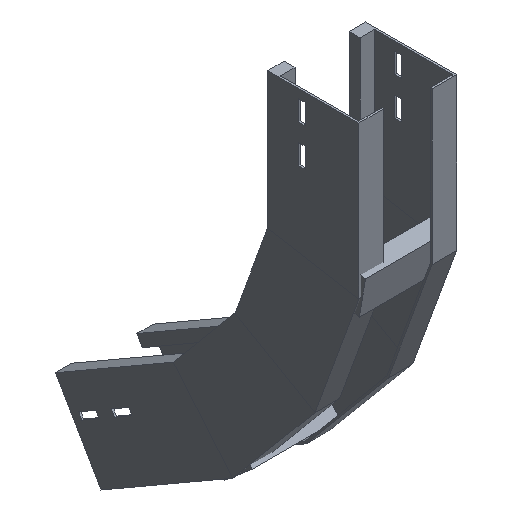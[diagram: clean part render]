
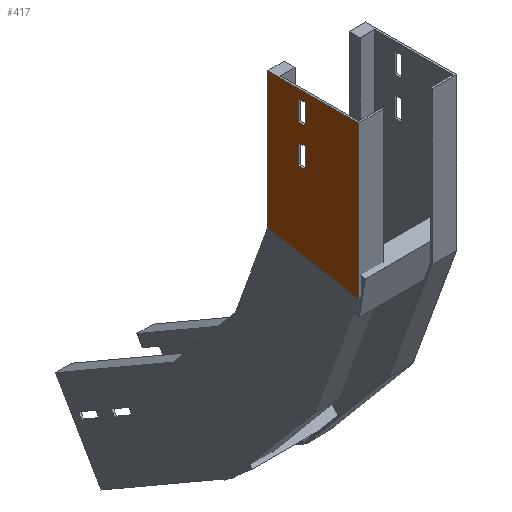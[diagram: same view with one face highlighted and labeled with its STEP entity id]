
A CAD part, isometric view. The second image highlights one B-rep face of the part: STEP entity #417.
In plain terms, the highlighted planar face has unit normal (-1, 0, 0) as drawn and (1, 0, 0) by its records, which use the part's own axes.
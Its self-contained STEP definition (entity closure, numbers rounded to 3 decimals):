
#18 = CARTESIAN_POINT ( 'NONE',  ( 0., 188.365, -320.454 ) ) ;
#50 = VECTOR ( 'NONE', #695, 1000. ) ;
#65 = FACE_BOUND ( 'NONE', #940, .T. ) ;
#84 = VECTOR ( 'NONE', #482, 1000. ) ;
#96 = CARTESIAN_POINT ( 'NONE',  ( 0., 154.048, -388.366 ) ) ;
#111 = VECTOR ( 'NONE', #1650, 1000. ) ;
#124 = VERTEX_POINT ( 'NONE', #501 ) ;
#126 = CARTESIAN_POINT ( 'NONE',  ( 0., 288.768, -417.681 ) ) ;
#140 = EDGE_CURVE ( 'NONE', #124, #1565, #582, .T. ) ;
#163 = ORIENTED_EDGE ( 'NONE', *, *, #227, .T. ) ;
#187 = PLANE ( 'NONE',  #1321 ) ;
#195 = ORIENTED_EDGE ( 'NONE', *, *, #140, .F. ) ;
#214 = DIRECTION ( 'NONE',  ( 0., 0.866, -0.5 ) ) ;
#227 = EDGE_CURVE ( 'NONE', #264, #952, #1092, .T. ) ;
#242 = FACE_OUTER_BOUND ( 'NONE', #618, .T. ) ;
#255 = DIRECTION ( 'NONE',  ( 0., -0.5, -0.866 ) ) ;
#264 = VERTEX_POINT ( 'NONE', #1042 ) ;
#269 = CARTESIAN_POINT ( 'NONE',  ( 0., 307.821, -428.681 ) ) ;
#323 = CARTESIAN_POINT ( 'NONE',  ( 0., 283.338, -490.756 ) ) ;
#331 = CARTESIAN_POINT ( 'NONE',  ( 0., 271.734, -407.846 ) ) ;
#347 = VECTOR ( 'NONE', #1147, 1000. ) ;
#353 = EDGE_CURVE ( 'NONE', #1265, #918, #1393, .T. ) ;
#378 = VECTOR ( 'NONE', #382, 1000. ) ;
#382 = DIRECTION ( 'NONE',  ( 0., 0.866, -0.5 ) ) ;
#387 = CARTESIAN_POINT ( 'NONE',  ( 0., 138.365, -407.056 ) ) ;
#417 = ADVANCED_FACE ( 'NONE', ( #1533, #65, #242 ), #187, .F. ) ;
#424 = VECTOR ( 'NONE', #787, 1000. ) ;
#442 = LINE ( 'NONE', #792, #669 ) ;
#443 = ORIENTED_EDGE ( 'NONE', *, *, #828, .F. ) ;
#458 = EDGE_CURVE ( 'NONE', #1486, #1333, #1348, .T. ) ;
#482 = DIRECTION ( 'NONE',  ( 0., 0.866, -0.5 ) ) ;
#489 = DIRECTION ( 'NONE',  ( 0., -0.866, 0.5 ) ) ;
#501 = CARTESIAN_POINT ( 'NONE',  ( 0., 268.234, -413.908 ) ) ;
#511 = EDGE_CURVE ( 'NONE', #1475, #952, #779, .T. ) ;
#524 = EDGE_CURVE ( 'NONE', #1364, #1486, #1434, .T. ) ;
#573 = ORIENTED_EDGE ( 'NONE', *, *, #458, .F. ) ;
#578 = EDGE_CURVE ( 'NONE', #1465, #264, #1684, .T. ) ;
#580 = LINE ( 'NONE', #1666, #347 ) ;
#582 = LINE ( 'NONE', #331, #793 ) ;
#584 = CARTESIAN_POINT ( 'NONE',  ( 0., 285.268, -423.743 ) ) ;
#618 = EDGE_LOOP ( 'NONE', ( #1110, #953, #163, #996 ) ) ;
#637 = EDGE_CURVE ( 'NONE', #1565, #1265, #442, .T. ) ;
#652 = ORIENTED_EDGE ( 'NONE', *, *, #637, .F. ) ;
#669 = VECTOR ( 'NONE', #945, 1000. ) ;
#695 = DIRECTION ( 'NONE',  ( 0., -0.643, -0.766 ) ) ;
#709 = ORIENTED_EDGE ( 'NONE', *, *, #1387, .F. ) ;
#751 = DIRECTION ( 'NONE',  ( -1., 0., 0. ) ) ;
#761 = ORIENTED_EDGE ( 'NONE', *, *, #979, .F. ) ;
#779 = LINE ( 'NONE', #18, #424 ) ;
#787 = DIRECTION ( 'NONE',  ( 0., 0.866, -0.5 ) ) ;
#792 = CARTESIAN_POINT ( 'NONE',  ( 0., 271.734, -407.846 ) ) ;
#793 = VECTOR ( 'NONE', #827, 1000. ) ;
#827 = DIRECTION ( 'NONE',  ( 0., 0.5, 0.866 ) ) ;
#828 = EDGE_CURVE ( 'NONE', #1001, #1364, #1653, .T. ) ;
#857 = LINE ( 'NONE', #96, #50 ) ;
#918 = VERTEX_POINT ( 'NONE', #1005 ) ;
#932 = VECTOR ( 'NONE', #489, 1000. ) ;
#940 = EDGE_LOOP ( 'NONE', ( #652, #195, #761, #1109 ) ) ;
#945 = DIRECTION ( 'NONE',  ( 0., -0.866, 0.5 ) ) ;
#952 = VERTEX_POINT ( 'NONE', #1243 ) ;
#953 = ORIENTED_EDGE ( 'NONE', *, *, #578, .T. ) ;
#957 = CARTESIAN_POINT ( 'NONE',  ( 0., 138.365, -407.056 ) ) ;
#966 = VECTOR ( 'NONE', #214, 1000. ) ;
#977 = CARTESIAN_POINT ( 'NONE',  ( 0., 307.821, -428.681 ) ) ;
#979 = EDGE_CURVE ( 'NONE', #918, #124, #1471, .T. ) ;
#996 = ORIENTED_EDGE ( 'NONE', *, *, #511, .F. ) ;
#1001 = VERTEX_POINT ( 'NONE', #269 ) ;
#1005 = CARTESIAN_POINT ( 'NONE',  ( 0., 249.181, -402.908 ) ) ;
#1042 = CARTESIAN_POINT ( 'NONE',  ( 0., 283.338, -490.756 ) ) ;
#1092 = LINE ( 'NONE', #323, #1656 ) ;
#1108 = CARTESIAN_POINT ( 'NONE',  ( 0., 138.365, -407.056 ) ) ;
#1109 = ORIENTED_EDGE ( 'NONE', *, *, #353, .F. ) ;
#1110 = ORIENTED_EDGE ( 'NONE', *, *, #1424, .T. ) ;
#1147 = DIRECTION ( 'NONE',  ( 0., 0.5, 0.866 ) ) ;
#1196 = CARTESIAN_POINT ( 'NONE',  ( 0., 271.734, -407.846 ) ) ;
#1243 = CARTESIAN_POINT ( 'NONE',  ( 0., 333.338, -404.154 ) ) ;
#1255 = CARTESIAN_POINT ( 'NONE',  ( 0., 252.681, -396.846 ) ) ;
#1261 = CARTESIAN_POINT ( 'NONE',  ( 0., 304.321, -434.743 ) ) ;
#1265 = VERTEX_POINT ( 'NONE', #1255 ) ;
#1269 = DIRECTION ( 'NONE',  ( 0., 0., 1. ) ) ;
#1321 = AXIS2_PLACEMENT_3D ( 'NONE', #957, #751, #1269 ) ;
#1333 = VERTEX_POINT ( 'NONE', #1261 ) ;
#1338 = CARTESIAN_POINT ( 'NONE',  ( 0., 304.321, -434.743 ) ) ;
#1348 = LINE ( 'NONE', #1338, #84 ) ;
#1364 = VERTEX_POINT ( 'NONE', #1485 ) ;
#1377 = CARTESIAN_POINT ( 'NONE',  ( 0., 268.234, -413.908 ) ) ;
#1387 = EDGE_CURVE ( 'NONE', #1333, #1001, #580, .T. ) ;
#1393 = LINE ( 'NONE', #1658, #111 ) ;
#1424 = EDGE_CURVE ( 'NONE', #1475, #1465, #857, .T. ) ;
#1434 = LINE ( 'NONE', #126, #1455 ) ;
#1455 = VECTOR ( 'NONE', #255, 1000. ) ;
#1457 = ORIENTED_EDGE ( 'NONE', *, *, #524, .F. ) ;
#1465 = VERTEX_POINT ( 'NONE', #1108 ) ;
#1471 = LINE ( 'NONE', #1377, #966 ) ;
#1475 = VERTEX_POINT ( 'NONE', #1617 ) ;
#1485 = CARTESIAN_POINT ( 'NONE',  ( 0., 288.768, -417.681 ) ) ;
#1486 = VERTEX_POINT ( 'NONE', #584 ) ;
#1487 = DIRECTION ( 'NONE',  ( 0., 0.5, 0.866 ) ) ;
#1533 = FACE_BOUND ( 'NONE', #1682, .T. ) ;
#1565 = VERTEX_POINT ( 'NONE', #1196 ) ;
#1617 = CARTESIAN_POINT ( 'NONE',  ( 0., 203.636, -329.27 ) ) ;
#1650 = DIRECTION ( 'NONE',  ( 0., -0.5, -0.866 ) ) ;
#1653 = LINE ( 'NONE', #977, #932 ) ;
#1656 = VECTOR ( 'NONE', #1487, 1000. ) ;
#1658 = CARTESIAN_POINT ( 'NONE',  ( 0., 252.681, -396.846 ) ) ;
#1666 = CARTESIAN_POINT ( 'NONE',  ( 0., 307.821, -428.681 ) ) ;
#1682 = EDGE_LOOP ( 'NONE', ( #443, #709, #573, #1457 ) ) ;
#1684 = LINE ( 'NONE', #387, #378 ) ;
